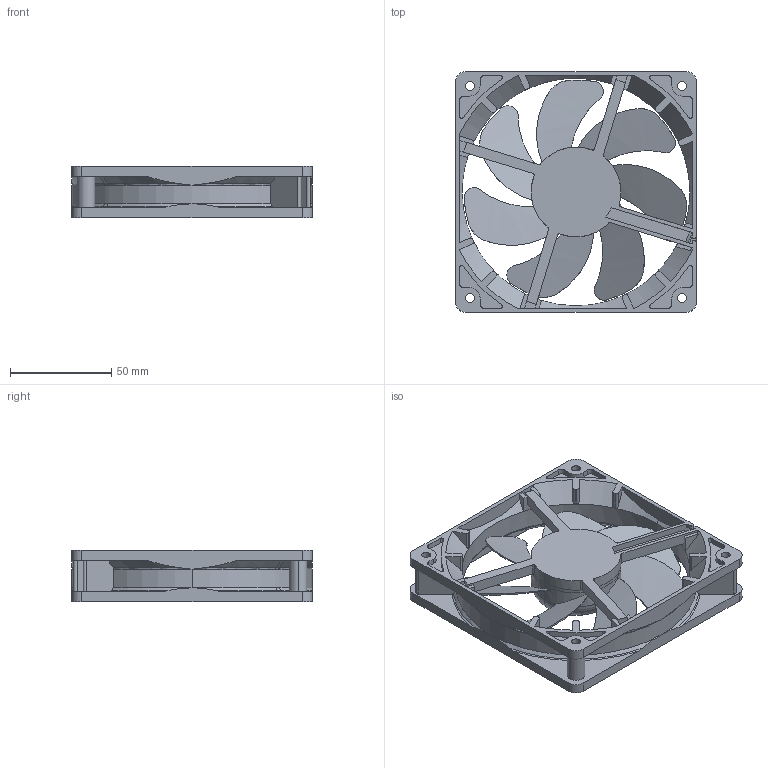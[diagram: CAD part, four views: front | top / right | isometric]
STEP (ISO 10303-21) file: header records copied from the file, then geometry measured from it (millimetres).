
FILE_DESCRIPTION (( 'STEP AP203' ), '1' );
FILE_NAME ('12025 S RIBBED.STEP', '2017-03-17T05:22:39', ( '' ), ( '' ), 'SwSTEP 2.0', 'SolidWorks 2017', '' );
FILE_SCHEMA (( 'CONFIG_CONTROL_DESIGN' ));
Length unit declared in the file: millimetre
Products named in the file (1): 12025 S RIBBED
Bounding box: 119 x 119 x 25.5 mm (x, y, z)
Volume: 92296.4 mm3; surface area: 59175.5 mm2
Topology: 1 solids, 1 shells, 495 faces, 1390 edges, 900 vertices
Faces by surface type: cylinder 206, plane 151, bspline 58, cone 57, torus 23
Entity records: 18443 total; most frequent: CARTESIAN_POINT 6146, ORIENTED_EDGE 2780, DIRECTION 2335, EDGE_CURVE 1390, VERTEX_POINT 900, AXIS2_PLACEMENT_3D 887, VECTOR 561, LINE 561
